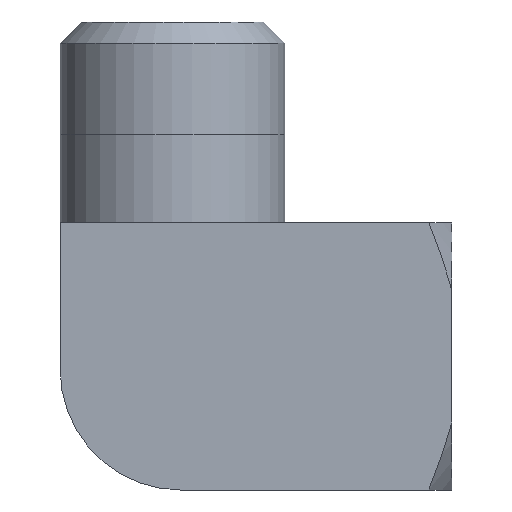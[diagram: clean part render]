
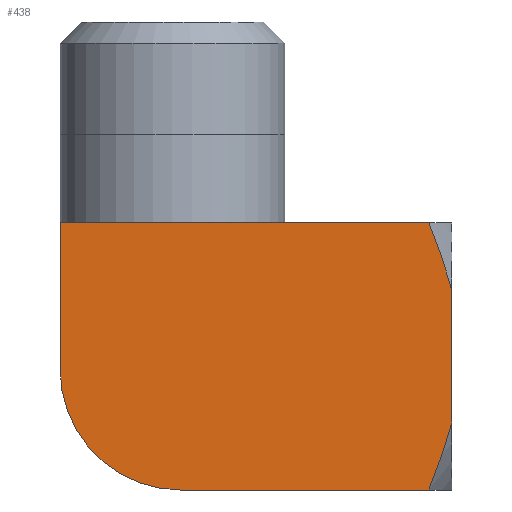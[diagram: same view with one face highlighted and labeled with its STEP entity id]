
A CAD part, front view. The second image highlights one B-rep face of the part: STEP entity #438.
In plain terms, the highlighted planar face has unit normal (0, -1, 0).
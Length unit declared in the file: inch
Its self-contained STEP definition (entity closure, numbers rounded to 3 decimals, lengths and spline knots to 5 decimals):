
#15=(
BOUNDED_CURVE()
B_SPLINE_CURVE(2,(#848,#849,#850),.UNSPECIFIED.,.F.,.F.)
B_SPLINE_CURVE_WITH_KNOTS((3,3),(0.,0.68276),.UNSPECIFIED.)
CURVE()
GEOMETRIC_REPRESENTATION_ITEM()
RATIONAL_B_SPLINE_CURVE((1.,1.021,1.))
REPRESENTATION_ITEM('')
);
#16=(
BOUNDED_CURVE()
B_SPLINE_CURVE(2,(#852,#853,#854),.UNSPECIFIED.,.F.,.F.)
B_SPLINE_CURVE_WITH_KNOTS((3,3),(0.,0.68276),.UNSPECIFIED.)
CURVE()
GEOMETRIC_REPRESENTATION_ITEM()
RATIONAL_B_SPLINE_CURVE((1.,1.021,1.))
REPRESENTATION_ITEM('')
);
#38=PLANE('',#497);
#62=FACE_OUTER_BOUND('',#89,.T.);
#89=EDGE_LOOP('',(#359,#360,#361,#362,#363,#364,#365));
#108=LINE('',#667,#132);
#117=LINE('',#839,#141);
#121=LINE('',#847,#145);
#122=LINE('',#855,#146);
#132=VECTOR('',#541,0.3937);
#141=VECTOR('',#594,0.3937);
#145=VECTOR('',#600,0.3937);
#146=VECTOR('',#601,0.3937);
#170=CIRCLE('',#494,0.45);
#186=VERTEX_POINT('',#664);
#187=VERTEX_POINT('',#666);
#206=VERTEX_POINT('',#829);
#207=VERTEX_POINT('',#830);
#210=VERTEX_POINT('',#838);
#213=VERTEX_POINT('',#846);
#214=VERTEX_POINT('',#851);
#232=EDGE_CURVE('',#186,#187,#108,.T.);
#258=EDGE_CURVE('',#206,#207,#170,.T.);
#262=EDGE_CURVE('',#207,#210,#117,.T.);
#266=EDGE_CURVE('',#213,#206,#121,.T.);
#267=EDGE_CURVE('',#187,#213,#15,.T.);
#268=EDGE_CURVE('',#214,#186,#16,.T.);
#269=EDGE_CURVE('',#214,#210,#122,.T.);
#359=ORIENTED_EDGE('',*,*,#258,.F.);
#360=ORIENTED_EDGE('',*,*,#266,.F.);
#361=ORIENTED_EDGE('',*,*,#267,.F.);
#362=ORIENTED_EDGE('',*,*,#232,.F.);
#363=ORIENTED_EDGE('',*,*,#268,.F.);
#364=ORIENTED_EDGE('',*,*,#269,.T.);
#365=ORIENTED_EDGE('',*,*,#262,.F.);
#438=ADVANCED_FACE('',(#62),#38,.F.);
#494=AXIS2_PLACEMENT_3D('',#831,#586,#587);
#497=AXIS2_PLACEMENT_3D('',#845,#598,#599);
#541=DIRECTION('',(0.,0.,-1.));
#586=DIRECTION('center_axis',(0.,1.,0.));
#587=DIRECTION('ref_axis',(-0.707,0.,-0.707));
#594=DIRECTION('',(0.,0.,1.));
#598=DIRECTION('center_axis',(0.,1.,0.));
#599=DIRECTION('ref_axis',(0.,0.,-1.));
#600=DIRECTION('',(-1.,0.,0.));
#601=DIRECTION('',(-1.,0.,0.));
#664=CARTESIAN_POINT('',(1.045,-0.5,0.2457));
#666=CARTESIAN_POINT('',(1.045,-0.5,-0.2457));
#667=CARTESIAN_POINT('',(1.045,-0.5,0.25));
#829=CARTESIAN_POINT('',(0.03,-0.5,-0.5));
#830=CARTESIAN_POINT('',(-0.42,-0.5,-0.05));
#831=CARTESIAN_POINT('Origin',(0.03,-0.5,-0.05));
#838=CARTESIAN_POINT('',(-0.42,-0.5,0.5));
#839=CARTESIAN_POINT('',(-0.42,-0.5,0.25));
#845=CARTESIAN_POINT('Origin',(1.045,-0.5,0.5));
#846=CARTESIAN_POINT('',(0.9584,-0.5,-0.5));
#847=CARTESIAN_POINT('',(0.,-0.5,-0.5));
#848=CARTESIAN_POINT('Ctrl Pts',(1.045,-0.5,-0.2457));
#849=CARTESIAN_POINT('Ctrl Pts',(1.01647,-0.5,-0.35776));
#850=CARTESIAN_POINT('Ctrl Pts',(0.9584,-0.5,-0.5));
#851=CARTESIAN_POINT('',(0.9584,-0.5,0.5));
#852=CARTESIAN_POINT('Ctrl Pts',(0.9584,-0.5,0.5));
#853=CARTESIAN_POINT('Ctrl Pts',(1.01647,-0.5,0.35776));
#854=CARTESIAN_POINT('Ctrl Pts',(1.045,-0.5,0.2457));
#855=CARTESIAN_POINT('',(0.,-0.5,0.5));
